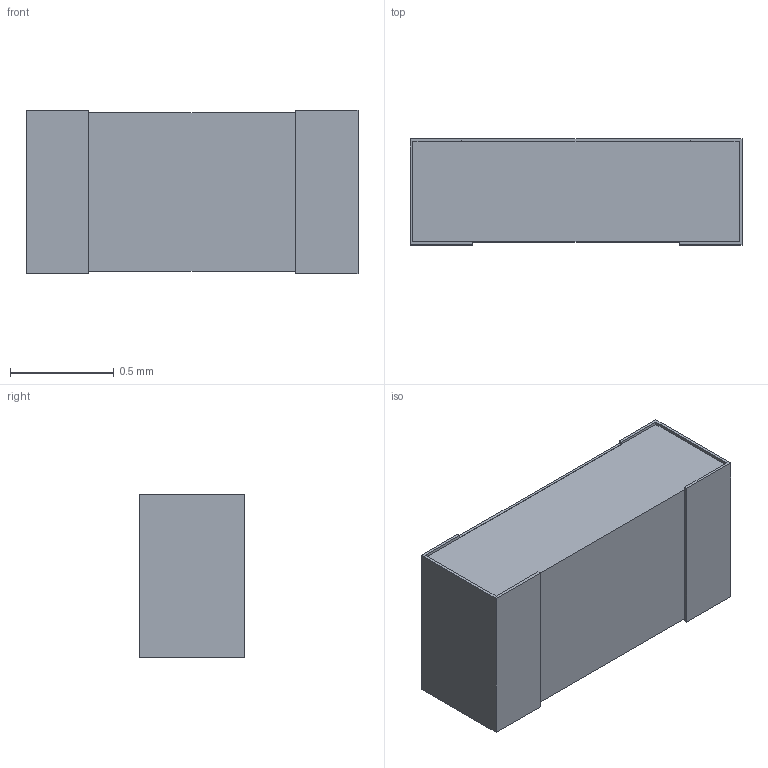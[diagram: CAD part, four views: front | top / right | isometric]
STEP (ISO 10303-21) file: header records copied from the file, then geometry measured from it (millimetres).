
FILE_DESCRIPTION(/* description */ (''),/* implementation_level */ '2;1');
FILE_NAME(/* name */ 'C:\Users\mulla\Documents\Work\SEI Models\Inventor Files\HVC\HVC0603_stp.stp',/* time_stamp */ '2021-07-26T17:30:59-04:00',/* author */ ('mulla'),/* organization */ (''),/* preprocessor_version */ 'ST-DEVELOPER v16.1',/* originating_system */ 'Autodesk Inventor 2016',/* authorisation */ '');
FILE_SCHEMA (('AUTOMOTIVE_DESIGN { 1 0 10303 214 3 1 1 }'));
Length unit declared in the file: millimetre
Products named in the file (1): HVC0603
Bounding box: 1.6 x 0.51 x 0.79 mm (x, y, z)
Volume: 0.6 mm3; surface area: 9.7 mm2
Topology: 4 solids, 4 shells, 32 faces, 72 edges, 48 vertices
Faces by surface type: plane 32
Entity records: 950 total; most frequent: CARTESIAN_POINT 153, ORIENTED_EDGE 144, DIRECTION 138, LINE 72, VECTOR 72, EDGE_CURVE 72, VERTEX_POINT 48, STYLED_ITEM 36
